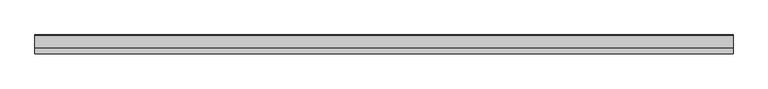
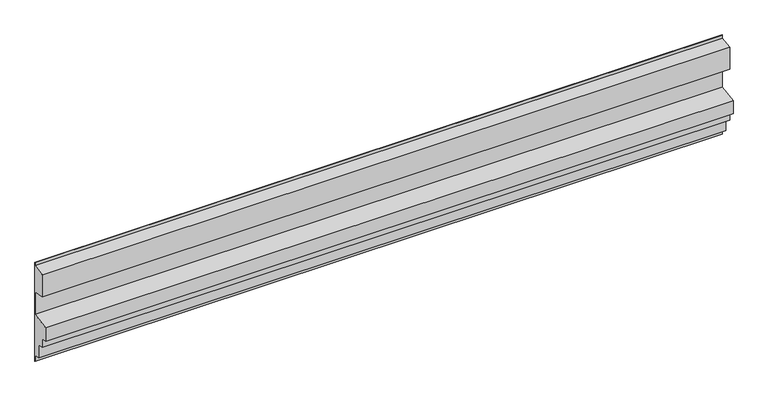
"""IFC4 building model written with IfcOpenShell, lengths in millimetres: plate geometry, ATELIERS 3S_NEW YORK MANHATTAN 780_HORIZONTAL : AZURO."""

from ifc_helpers import new_model, si_unit, frame, origin, place, context, project, spatial, polyline, outline, extrude, source, transform, mapped, element, save


def plate_c92b519c(model_context):
    return source(origin(), model_context, "Body", "SweptSolid", [
        extrude(outline(polyline([(-0.75, 328.5800585), (-0.75, 340.0), (0.0, 340.0), (0.0, 0.0), (-0.8, 0.0), (-0.8, 19.6941775), (-20.7501589, 23.211221), (-20.7501589, 68.2118488), (-40.7500015, 71.7384174), (-40.7500015, 101.7384166), (-60.7500001, 105.2649565), (-60.7500001, 150.8942812), (-0.75, 161.4739), (-0.75, 238.8445753), (-40.75, 245.8976546), (-40.75, 321.5269793), (-0.75, 328.5800585)])), frame((-1116.75, 0.0, 0.0), z_axis=(1.0, 0.0, 0.0), x_axis=(0.0, 1.0, 0.0)), (0.0, 0.0, 1.0), 2233.5),
    ])


if __name__ == "__main__":
    model = new_model("IFC4")
    model_context = context("Model", 3, world=origin())
    ifc_project = project(units=[si_unit("LENGTHUNIT", "METRE", prefix="MILLI")], contexts=[model_context])
    site = spatial("IfcSite", under=ifc_project)
    building = spatial("IfcBuilding", under=site)
    placement = place(None, origin())
    plate_shape = plate_c92b519c(model_context)
    element("IfcPlate", 1, ObjectType="ATELIERS 3S_NEW YORK MANHATTAN 780_HORIZONTAL : AZURO", at=placement, inside=building, context=model_context, shape_type="MappedRepresentation", body=[
        mapped(plate_shape, transform((0.0, 0.0, 0.0), x_axis=(1.0, 0.0, 0.0), y_axis=(0.0, 1.0, 0.0), z_axis=(0.0, 0.0, 1.0))),
    ])
    save(model, "model.ifc")
